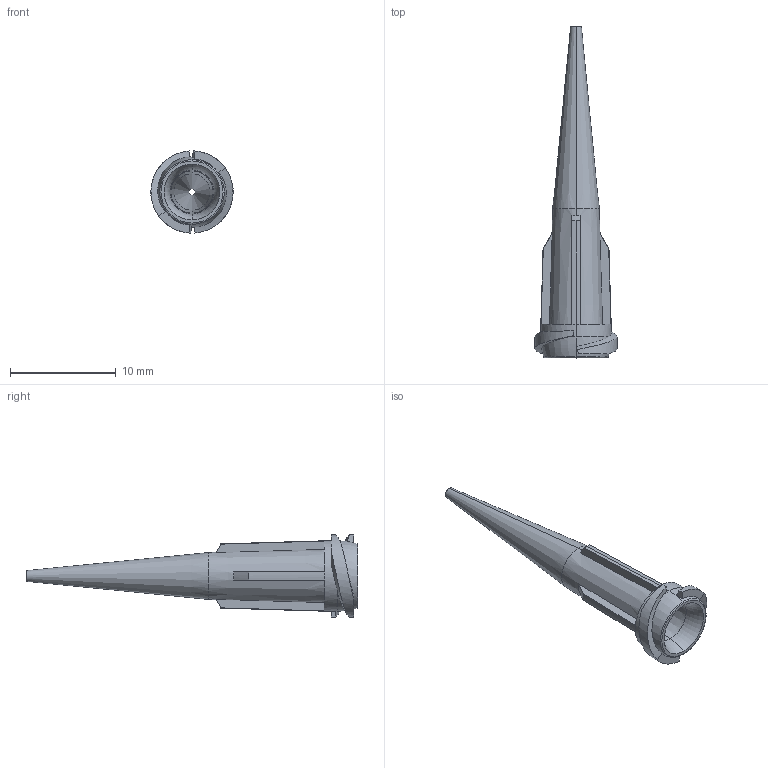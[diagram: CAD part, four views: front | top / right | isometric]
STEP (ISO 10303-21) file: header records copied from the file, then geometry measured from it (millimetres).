
FILE_DESCRIPTION (( 'STEP AP214' ), '1' );
FILE_NAME ('NORDSONEFD-7018216 TIP 20GA TT 023 PK.STEP', '2019-01-09T16:51:45', ( '' ), ( '' ), 'SwSTEP 2.0', 'SolidWorks 2018', '' );
FILE_SCHEMA (( 'AUTOMOTIVE_DESIGN' ));
Length unit declared in the file: inch
Products named in the file (1): NORDSONEFD-7018216 TIP 20GA TT 023 PK
Bounding box: 7.77 x 31.37 x 7.77 mm (x, y, z)
Volume: 212.2 mm3; surface area: 769.9 mm2
Topology: 1 solids, 1 shells, 58 faces, 144 edges, 88 vertices
Faces by surface type: plane 22, cone 14, bspline 12, torus 8, cylinder 2
Entity records: 2112 total; most frequent: CARTESIAN_POINT 801, ORIENTED_EDGE 288, DIRECTION 246, EDGE_CURVE 144, AXIS2_PLACEMENT_3D 103, VERTEX_POINT 88, EDGE_LOOP 60, FACE_OUTER_BOUND 58
